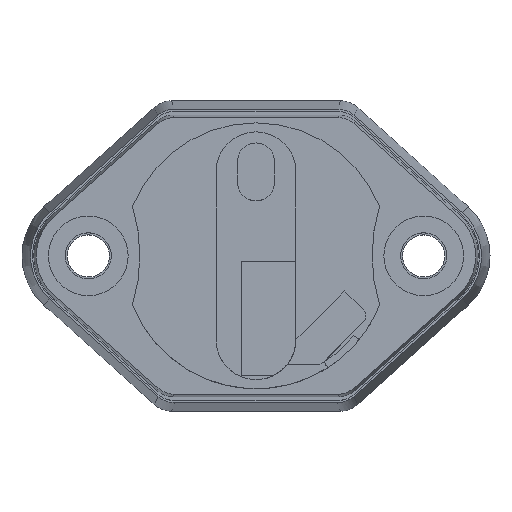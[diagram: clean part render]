
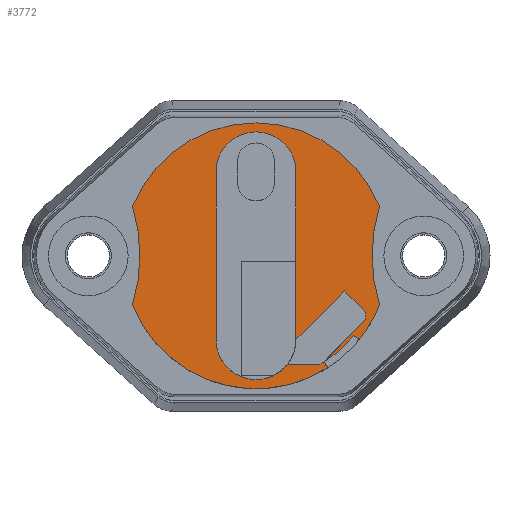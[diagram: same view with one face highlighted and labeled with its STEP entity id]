
A CAD part, top view. The second image highlights one B-rep face of the part: STEP entity #3772.
In plain terms, the highlighted planar face has unit normal (0, 0, 1).
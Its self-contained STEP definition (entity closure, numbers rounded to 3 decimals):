
#351=PLANE('',#4224);
#485=FACE_OUTER_BOUND('',#719,.T.);
#719=EDGE_LOOP('',(#2872,#2873,#2874,#2875,#2876,#2877,#2878,#2879));
#1484=CIRCLE('',#4200,15.05);
#1486=CIRCLE('',#4203,0.848);
#1488=CIRCLE('',#4206,0.912);
#1492=CIRCLE('',#4212,19.865);
#1494=CIRCLE('',#4215,19.865);
#1495=CIRCLE('',#4217,15.85);
#1496=CIRCLE('',#4218,15.85);
#1499=CIRCLE('',#4222,15.85);
#1682=VERTEX_POINT('',#5829);
#1683=VERTEX_POINT('',#5830);
#1686=VERTEX_POINT('',#5838);
#1688=VERTEX_POINT('',#5844);
#1692=VERTEX_POINT('',#5855);
#1693=VERTEX_POINT('',#5857);
#1696=VERTEX_POINT('',#5864);
#1697=VERTEX_POINT('',#5866);
#2105=EDGE_CURVE('',#1682,#1683,#1484,.T.);
#2109=EDGE_CURVE('',#1683,#1686,#1486,.T.);
#2112=EDGE_CURVE('',#1688,#1682,#1488,.T.);
#2118=EDGE_CURVE('',#1693,#1692,#1492,.T.);
#2122=EDGE_CURVE('',#1697,#1696,#1494,.T.);
#2124=EDGE_CURVE('',#1686,#1693,#1495,.T.);
#2125=EDGE_CURVE('',#1696,#1688,#1496,.T.);
#2128=EDGE_CURVE('',#1692,#1697,#1499,.T.);
#2872=ORIENTED_EDGE('',*,*,#2109,.T.);
#2873=ORIENTED_EDGE('',*,*,#2124,.T.);
#2874=ORIENTED_EDGE('',*,*,#2118,.T.);
#2875=ORIENTED_EDGE('',*,*,#2128,.T.);
#2876=ORIENTED_EDGE('',*,*,#2122,.T.);
#2877=ORIENTED_EDGE('',*,*,#2125,.T.);
#2878=ORIENTED_EDGE('',*,*,#2112,.T.);
#2879=ORIENTED_EDGE('',*,*,#2105,.T.);
#3772=ADVANCED_FACE('',(#485),#351,.T.);
#4200=AXIS2_PLACEMENT_3D('',#5831,#4811,#4812);
#4203=AXIS2_PLACEMENT_3D('',#5839,#4819,#4820);
#4206=AXIS2_PLACEMENT_3D('',#5845,#4826,#4827);
#4212=AXIS2_PLACEMENT_3D('',#5858,#4840,#4841);
#4215=AXIS2_PLACEMENT_3D('',#5867,#4848,#4849);
#4217=AXIS2_PLACEMENT_3D('',#5870,#4853,#4854);
#4218=AXIS2_PLACEMENT_3D('',#5871,#4855,#4856);
#4222=AXIS2_PLACEMENT_3D('',#5875,#4863,#4864);
#4224=AXIS2_PLACEMENT_3D('',#5877,#4867,#4868);
#4811=DIRECTION('center_axis',(0.,0.,1.));
#4812=DIRECTION('ref_axis',(0.84,0.543,0.));
#4819=DIRECTION('center_axis',(0.,0.,-1.));
#4820=DIRECTION('ref_axis',(-0.383,0.924,0.));
#4826=DIRECTION('center_axis',(0.,0.,-1.));
#4827=DIRECTION('ref_axis',(0.119,-0.993,0.));
#4840=DIRECTION('center_axis',(0.,0.,-1.));
#4841=DIRECTION('ref_axis',(-0.294,-0.956,0.));
#4848=DIRECTION('center_axis',(0.,0.,-1.));
#4849=DIRECTION('ref_axis',(0.294,0.956,0.));
#4853=DIRECTION('center_axis',(0.,0.,1.));
#4854=DIRECTION('ref_axis',(1.,0.,0.));
#4855=DIRECTION('center_axis',(0.,0.,1.));
#4856=DIRECTION('ref_axis',(1.,0.,0.));
#4863=DIRECTION('center_axis',(0.,0.,1.));
#4864=DIRECTION('ref_axis',(1.,0.,0.));
#4867=DIRECTION('center_axis',(0.,0.,1.));
#4868=DIRECTION('ref_axis',(1.,0.,0.));
#5829=CARTESIAN_POINT('',(12.639,8.17,3.8));
#5830=CARTESIAN_POINT('',(9.535,11.644,3.8));
#5831=CARTESIAN_POINT('Origin',(0.,0.,
3.8));
#5838=CARTESIAN_POINT('',(10.042,12.263,3.8));
#5839=CARTESIAN_POINT('Origin',(10.367,11.48,3.8));
#5844=CARTESIAN_POINT('',(13.311,8.605,3.8));
#5845=CARTESIAN_POINT('Origin',(12.53,9.076,3.8));
#5855=CARTESIAN_POINT('',(-5.85,14.731,3.8));
#5857=CARTESIAN_POINT('',(5.85,14.731,3.8));
#5858=CARTESIAN_POINT('Origin',(0.,33.715,3.8));
#5864=CARTESIAN_POINT('',(5.85,-14.731,3.8));
#5866=CARTESIAN_POINT('',(-5.85,-14.731,3.8));
#5867=CARTESIAN_POINT('Origin',(0.,-33.715,
3.8));
#5870=CARTESIAN_POINT('Origin',(0.,0.,3.8));
#5871=CARTESIAN_POINT('Origin',(0.,0.,3.8));
#5875=CARTESIAN_POINT('Origin',(0.,0.,3.8));
#5877=CARTESIAN_POINT('Origin',(0.,0.,3.8));
